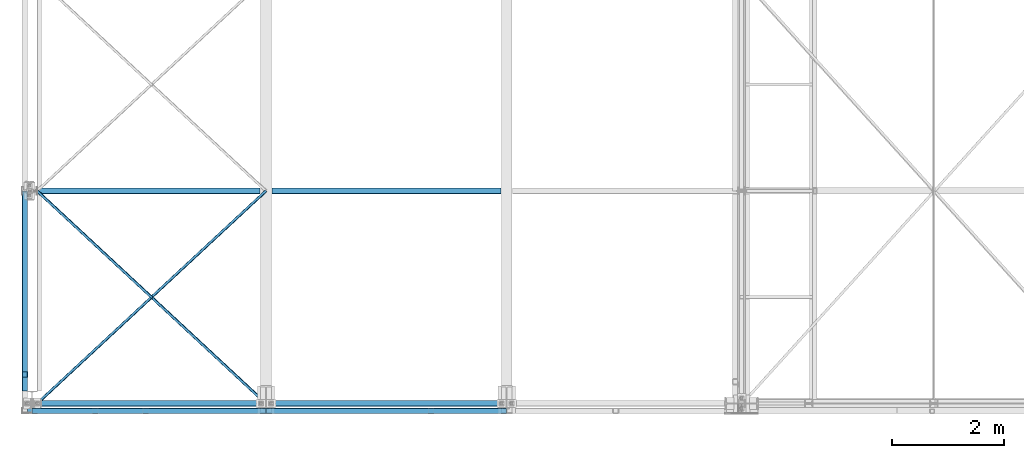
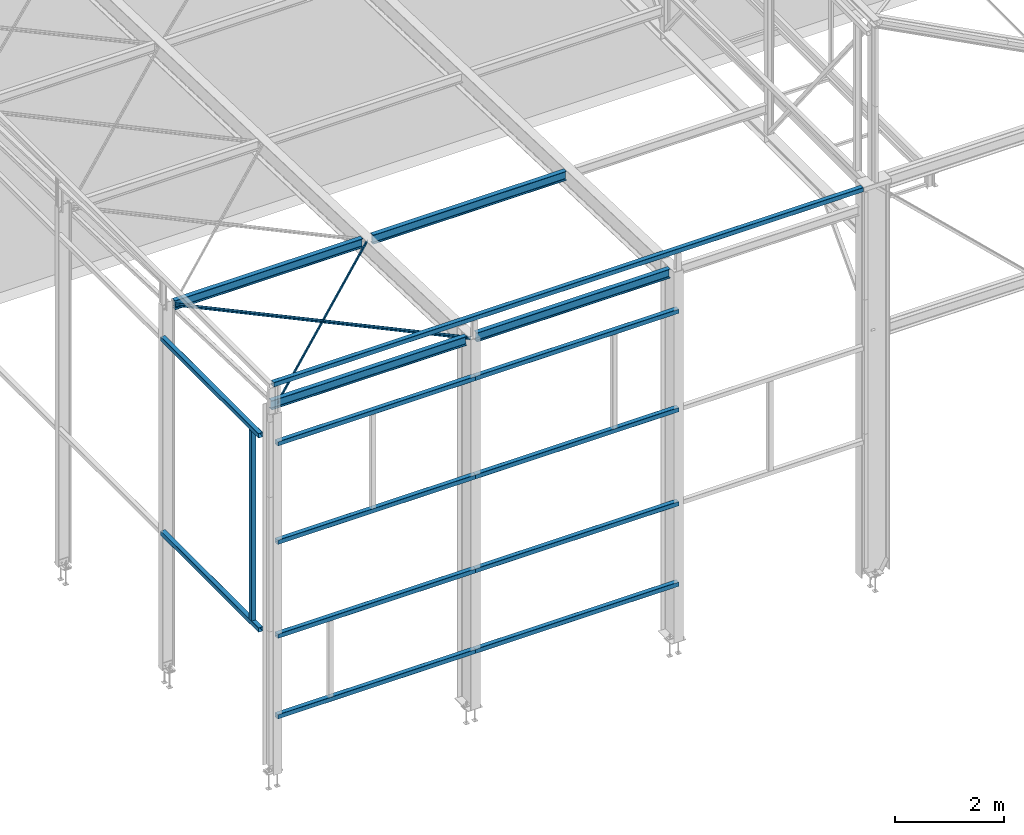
# One storey, part 24 of 123: 18 beams, 18 elements without a shape of their own.
"""IFC2X3 building model written with IfcOpenShell, lengths in millimetres."""

from ifc_helpers import new_model, si_unit, frame, origin_with_axes, origin_2d_with_axis, place, context, subcontext, project, spatial, hollow_rectangle, i_section, l_section, extrude, material, type_object, element, aggregate, save


model = new_model("IFC2X3")

# Units and contexts
model_context = context("Model", 3, precision=1e-05, world=origin_with_axes())
body_context = subcontext(model_context, "Body", "Model", "MODEL_VIEW")
ifc_project = project(units=[si_unit("LENGTHUNIT", "METRE", prefix="MILLI"), si_unit("AREAUNIT", "SQUARE_METRE"), si_unit("VOLUMEUNIT", "CUBIC_METRE"), si_unit("MASSUNIT", "GRAM", prefix="KILO"), si_unit("TIMEUNIT", "SECOND"), si_unit("PLANEANGLEUNIT", "RADIAN"), si_unit("SOLIDANGLEUNIT", "STERADIAN"), si_unit("THERMODYNAMICTEMPERATUREUNIT", "DEGREE_CELSIUS"), si_unit("LUMINOUSINTENSITYUNIT", "LUMEN")], contexts=[model_context])

# Site, building, storey
site_placement = place(None, origin_with_axes())
site = spatial("IfcSite", under=ifc_project, at=site_placement, Name="Undefined", CompositionType="ELEMENT")
building_placement = place(site_placement, origin_with_axes())
building = spatial("IfcBuilding", under=site, at=building_placement, Name="Undefined", CompositionType="ELEMENT")
storey_placement = place(building_placement, origin_with_axes())
storey = spatial("IfcBuildingStorey", under=building, at=storey_placement, Name="Undefined", CompositionType="ELEMENT", Elevation=0.0)

# Assembly, beam
assembly_1_placement = place(storey_placement, origin_with_axes())
assembly_1 = element("IfcElementAssembly", 1, at=assembly_1_placement, inside=storey, Name="Steel Assembly", AssemblyPlace="NOTDEFINED", PredefinedType="RIGID_FRAME")
ifc_material_1 = material(Name="STEEL/S235-E24")
beam_type_1 = type_object("IfcBeamType", Name="TUBE-C-100*100*4", PredefinedType="NOTDEFINED")
beam_1_placement = place(assembly_1_placement, frame((4180.0000000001, -130.000008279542, 7150.0), z_axis=(0.0, 0.0, -1.0), x_axis=(1.0, 0.0, 0.0)))
beam_1 = element("IfcBeam", 2, at=beam_1_placement, type_object=beam_type_1, material=ifc_material_1, Name="LISSE CHASSIS", ObjectType="TUBE-C-100*100*4", context=body_context, shape_type="SweptSolid", body=[
    extrude(hollow_rectangle(XDim=100.0, YDim=100.0, WallThickness=4.0, InnerFilletRadius=4.0, OuterFilletRadius=8.0, at=origin_2d_with_axis()), frame((4299.9999999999, 0.0, 0.0), z_axis=(-1.0, 0.0, 0.0), x_axis=(0.0, -1.0, 0.0)), (0.0, 0.0, 1.0), 4300.0),
])
aggregate(assembly_1, [beam_1])

assembly_2_placement = place(storey_placement, origin_with_axes())
assembly_2 = element("IfcElementAssembly", 3, at=assembly_2_placement, inside=storey, Name="Steel Assembly", AssemblyPlace="NOTDEFINED", PredefinedType="RIGID_FRAME")
beam_2_placement = place(assembly_2_placement, frame((4180.0, -130.000008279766, 4949.99999999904), z_axis=(0.0, 0.0, 1.0), x_axis=(1.0, 0.0, 0.0)))
beam_2 = element("IfcBeam", 4, at=beam_2_placement, type_object=beam_type_1, material=ifc_material_1, Name="LISSE CHASSIS", ObjectType="TUBE-C-100*100*4", context=body_context, shape_type="SweptSolid", body=[
    extrude(hollow_rectangle(XDim=100.0, YDim=100.0, WallThickness=4.0, InnerFilletRadius=4.0, OuterFilletRadius=8.0, at=origin_2d_with_axis()), frame((4299.9999999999, 0.0, 0.0), z_axis=(-1.0, 0.0, 0.0), x_axis=(0.0, -1.0, 0.0)), (0.0, 0.0, 1.0), 4300.0),
])
aggregate(assembly_2, [beam_2])

assembly_3_placement = place(storey_placement, origin_with_axes())
assembly_3 = element("IfcElementAssembly", 5, at=assembly_3_placement, inside=storey, Name="Steel Assembly", AssemblyPlace="NOTDEFINED", PredefinedType="RIGID_FRAME")
beam_3_placement = place(assembly_3_placement, frame((4180.0000000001, -130.000008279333, 2850.0), z_axis=(0.0, 0.0, -1.0), x_axis=(1.0, 0.0, 0.0)))
beam_3 = element("IfcBeam", 6, at=beam_3_placement, type_object=beam_type_1, material=ifc_material_1, Name="LISSE CHASSIS", ObjectType="TUBE-C-100*100*4", context=body_context, shape_type="SweptSolid", body=[
    extrude(hollow_rectangle(XDim=100.0, YDim=100.0, WallThickness=4.0, InnerFilletRadius=4.0, OuterFilletRadius=8.0, at=origin_2d_with_axis()), frame((4299.9999999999, 0.0, 0.0), z_axis=(-1.0, 0.0, 0.0), x_axis=(0.0, -1.0, 0.0)), (0.0, 0.0, 1.0), 4300.0),
])
aggregate(assembly_3, [beam_3])

assembly_4_placement = place(storey_placement, origin_with_axes())
assembly_4 = element("IfcElementAssembly", 7, at=assembly_4_placement, inside=storey, Name="Steel Assembly", AssemblyPlace="NOTDEFINED", PredefinedType="RIGID_FRAME")
beam_4_placement = place(assembly_4_placement, frame((4180.0, -130.000008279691, 1049.99999999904), z_axis=(0.0, 0.0, 1.0), x_axis=(1.0, 0.0, 0.0)))
beam_4 = element("IfcBeam", 8, at=beam_4_placement, type_object=beam_type_1, material=ifc_material_1, Name="LISSE CHASSIS", ObjectType="TUBE-C-100*100*4", context=body_context, shape_type="SweptSolid", body=[
    extrude(hollow_rectangle(XDim=100.0, YDim=100.0, WallThickness=4.0, InnerFilletRadius=4.0, OuterFilletRadius=8.0, at=origin_2d_with_axis()), frame((4299.9999999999, 0.0, 0.0), z_axis=(-1.0, 0.0, 0.0), x_axis=(0.0, -1.0, 0.0)), (0.0, 0.0, 1.0), 4300.0),
])
aggregate(assembly_4, [beam_4])

assembly_5_placement = place(storey_placement, origin_with_axes())
assembly_5 = element("IfcElementAssembly", 9, at=assembly_5_placement, inside=storey, Name="Steel Assembly", AssemblyPlace="NOTDEFINED", PredefinedType="RIGID_FRAME")
beam_5_placement = place(assembly_5_placement, frame((7.06409508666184e-09, -130.000007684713, 7150.0), z_axis=(0.0, 0.0, -1.0), x_axis=(1.0, 0.0, 0.0)))
beam_5 = element("IfcBeam", 10, at=beam_5_placement, type_object=beam_type_1, material=ifc_material_1, Name="LISSE CHASSIS", ObjectType="TUBE-C-100*100*4", context=body_context, shape_type="SweptSolid", body=[
    extrude(hollow_rectangle(XDim=100.0, YDim=100.0, WallThickness=4.0, InnerFilletRadius=4.0, OuterFilletRadius=8.0, at=origin_2d_with_axis()), frame((4180.00000000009, 0.0, 0.0), z_axis=(-1.0, 0.0, 0.0), x_axis=(0.0, -1.0, 0.0)), (0.0, 0.0, 1.0), 4180.0),
])
aggregate(assembly_5, [beam_5])

assembly_6_placement = place(storey_placement, origin_with_axes())
assembly_6 = element("IfcElementAssembly", 11, at=assembly_6_placement, inside=storey, Name="Steel Assembly", AssemblyPlace="NOTDEFINED", PredefinedType="RIGID_FRAME")
beam_6_placement = place(assembly_6_placement, frame((7.07302660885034e-09, -130.000007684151, 4949.99999999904), z_axis=(0.0, 0.0, 1.0), x_axis=(1.0, 0.0, 0.0)))
beam_6 = element("IfcBeam", 12, at=beam_6_placement, type_object=beam_type_1, material=ifc_material_1, Name="LISSE CHASSIS", ObjectType="TUBE-C-100*100*4", context=body_context, shape_type="SweptSolid", body=[
    extrude(hollow_rectangle(XDim=100.0, YDim=100.0, WallThickness=4.0, InnerFilletRadius=4.0, OuterFilletRadius=8.0, at=origin_2d_with_axis()), frame((4180.00000000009, 0.0, 0.0), z_axis=(-1.0, 0.0, 0.0), x_axis=(0.0, -1.0, 0.0)), (0.0, 0.0, 1.0), 4180.0),
])
aggregate(assembly_6, [beam_6])

assembly_7_placement = place(storey_placement, origin_with_axes())
assembly_7 = element("IfcElementAssembly", 13, at=assembly_7_placement, inside=storey, Name="Steel Assembly", AssemblyPlace="NOTDEFINED", PredefinedType="RIGID_FRAME")
beam_7_placement = place(assembly_7_placement, frame((7.06173608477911e-09, -130.000007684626, 2850.0), z_axis=(0.0, 0.0, -1.0), x_axis=(1.0, 0.0, 0.0)))
beam_7 = element("IfcBeam", 14, at=beam_7_placement, type_object=beam_type_1, material=ifc_material_1, Name="LISSE CHASSIS", ObjectType="TUBE-C-100*100*4", context=body_context, shape_type="SweptSolid", body=[
    extrude(hollow_rectangle(XDim=100.0, YDim=100.0, WallThickness=4.0, InnerFilletRadius=4.0, OuterFilletRadius=8.0, at=origin_2d_with_axis()), frame((4180.00000000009, 0.0, 0.0), z_axis=(-1.0, 0.0, 0.0), x_axis=(0.0, -1.0, 0.0)), (0.0, 0.0, 1.0), 4180.0),
])
aggregate(assembly_7, [beam_7])

assembly_8_placement = place(storey_placement, origin_with_axes())
assembly_8 = element("IfcElementAssembly", 15, at=assembly_8_placement, inside=storey, Name="Steel Assembly", AssemblyPlace="NOTDEFINED", PredefinedType="RIGID_FRAME")
beam_8_placement = place(assembly_8_placement, frame((7.07353819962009e-09, -130.000007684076, 1049.99999999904), z_axis=(0.0, 0.0, 1.0), x_axis=(1.0, 0.0, 0.0)))
beam_8 = element("IfcBeam", 16, at=beam_8_placement, type_object=beam_type_1, material=ifc_material_1, Name="LISSE CHASSIS", ObjectType="TUBE-C-100*100*4", context=body_context, shape_type="SweptSolid", body=[
    extrude(hollow_rectangle(XDim=100.0, YDim=100.0, WallThickness=4.0, InnerFilletRadius=4.0, OuterFilletRadius=8.0, at=origin_2d_with_axis()), frame((4180.00000000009, 0.0, 0.0), z_axis=(-1.0, 0.0, 0.0), x_axis=(0.0, -1.0, 0.0)), (0.0, 0.0, 1.0), 4180.0),
])
aggregate(assembly_8, [beam_8])

assembly_9_placement = place(storey_placement, origin_with_axes())
assembly_9 = element("IfcElementAssembly", 17, at=assembly_9_placement, inside=storey, Name="Steel Assembly", AssemblyPlace="NOTDEFINED", PredefinedType="RIGID_FRAME")
beam_9_placement = place(assembly_9_placement, frame((-130.00000139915, 3800.00000343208, 7150.00001790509), z_axis=(0.0, 0.0, -1.0), x_axis=(0.0, -1.0, 0.0)))
beam_9 = element("IfcBeam", 18, at=beam_9_placement, type_object=beam_type_1, material=ifc_material_1, Name="LISSE CHASSIS", ObjectType="TUBE-C-100*100*4", context=body_context, shape_type="SweptSolid", body=[
    extrude(hollow_rectangle(XDim=100.0, YDim=100.0, WallThickness=4.0, InnerFilletRadius=4.0, OuterFilletRadius=8.0, at=origin_2d_with_axis()), frame((3580.00000400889, 0.0, 0.0), z_axis=(-1.0, 0.0, 0.0), x_axis=(0.0, -1.0, 0.0)), (0.0, 0.0, 1.0), 3580.0),
])
aggregate(assembly_9, [beam_9])

assembly_10_placement = place(storey_placement, origin_with_axes())
assembly_10 = element("IfcElementAssembly", 19, at=assembly_10_placement, inside=storey, Name="Steel Assembly", AssemblyPlace="NOTDEFINED", PredefinedType="RIGID_FRAME")
beam_10_placement = place(assembly_10_placement, frame((-130.000001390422, 3799.99999900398, 2809.99999988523), z_axis=(0.0, 0.0, 1.0), x_axis=(0.0, -1.0, 0.0)))
beam_10 = element("IfcBeam", 20, at=beam_10_placement, type_object=beam_type_1, material=ifc_material_1, Name="LISSE CHASSIS", ObjectType="TUBE-C-100*100*4", context=body_context, shape_type="SweptSolid", body=[
    extrude(hollow_rectangle(XDim=100.0, YDim=100.0, WallThickness=4.0, InnerFilletRadius=4.0, OuterFilletRadius=8.0, at=origin_2d_with_axis()), frame((3580.00000400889, 0.0, 0.0), z_axis=(-1.0, 0.0, 0.0), x_axis=(0.0, -1.0, 0.0)), (0.0, 0.0, 1.0), 3580.0),
])
aggregate(assembly_10, [beam_10])

assembly_11_placement = place(storey_placement, origin_with_axes())
assembly_11 = element("IfcElementAssembly", 21, at=assembly_11_placement, inside=storey, Name="Steel Assembly", AssemblyPlace="NOTDEFINED", PredefinedType="RIGID_FRAME")
beam_11_placement = place(assembly_11_placement, frame((-129.999916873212, 519.993384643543, 7100.00000857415), z_axis=(1.0, 0.0, 0.0), x_axis=(0.0, 0.0, -1.0)))
beam_11 = element("IfcBeam", 22, at=beam_11_placement, type_object=beam_type_1, material=ifc_material_1, Name="MONTANT", ObjectType="TUBE-C-100*100*4", context=body_context, shape_type="SweptSolid", body=[
    extrude(hollow_rectangle(XDim=100.0, YDim=100.0, WallThickness=4.0, InnerFilletRadius=4.0, OuterFilletRadius=8.0, at=origin_2d_with_axis()), frame((4240.0000086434, 0.0, 0.0), z_axis=(-1.0, 0.0, 0.0), x_axis=(0.0, -1.0, 0.0)), (0.0, 0.0, 1.0), 4240.0),
])
aggregate(assembly_11, [beam_11])

assembly_12_placement = place(storey_placement, origin_with_axes())
assembly_12 = element("IfcElementAssembly", 23, at=assembly_12_placement, inside=storey, Name="Steel Assembly", AssemblyPlace="NOTDEFINED", PredefinedType="RIGID_FRAME")
beam_12_placement = place(assembly_12_placement, frame((-80.0, -130.0, 8500.0), z_axis=(0.0, 0.0, 1.0), x_axis=(1.0, 0.0, 0.0)))
beam_12 = element("IfcBeam", 24, at=beam_12_placement, type_object=beam_type_1, material=ifc_material_1, Name="LISSE ACROTERE", ObjectType="TUBE-C-100*100*4", context=body_context, shape_type="SweptSolid", body=[
    extrude(hollow_rectangle(XDim=100.0, YDim=100.0, WallThickness=4.0, InnerFilletRadius=4.0, OuterFilletRadius=8.0, at=origin_2d_with_axis()), frame((12460.0, 0.0, 0.0), z_axis=(-1.0, 0.0, 0.0), x_axis=(0.0, -1.0, 0.0)), (0.0, 0.0, 1.0), 12460.0),
])
aggregate(assembly_12, [beam_12])

assembly_13_placement = place(storey_placement, origin_with_axes())
assembly_13 = element("IfcElementAssembly", 25, at=assembly_13_placement, inside=storey, Name="Steel Assembly", AssemblyPlace="NOTDEFINED", PredefinedType="RIGID_FRAME")
beam_type_2 = type_object("IfcBeamType", Name="L50*5", PredefinedType="NOTDEFINED")
beam_13_placement = place(assembly_13_placement, frame((4180.00002809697, 2.42824460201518e-05, 7949.9506246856), z_axis=(-0.680838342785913, -0.732072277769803, 0.0230071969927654), x_axis=(-0.732433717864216, 0.680502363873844, -0.0213864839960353)))
beam_13 = element("IfcBeam", 26, at=beam_13_placement, type_object=beam_type_2, material=ifc_material_1, Name="STABILITE CVT", ObjectType="L50*5", context=body_context, shape_type="SweptSolid", body=[
    extrude(l_section(Depth=50.0, Width=50.0, Thickness=5.0, FilletRadius=7.0, EdgeRadius=3.5, at=origin_2d_with_axis()), frame((5584.12307961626, -1.93738187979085e-14, -3.31776646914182e-13), z_axis=(-1.0, 0.0, 0.0), x_axis=(0.0, -1.0, 0.0)), (0.0, 0.0, 1.0), 5584.1),
])
aggregate(assembly_13, [beam_13])

assembly_14_placement = place(storey_placement, origin_with_axes())
assembly_14 = element("IfcElementAssembly", 27, at=assembly_14_placement, inside=storey, Name="Steel Assembly", AssemblyPlace="NOTDEFINED", PredefinedType="RIGID_FRAME")
beam_14_placement = place(assembly_14_placement, frame((90.0000000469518, 0.0, 7949.95062448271), z_axis=(-0.680838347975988, 0.732072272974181, -0.0230071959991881), x_axis=(0.732433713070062, 0.680502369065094, -0.0213864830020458)))
beam_14 = element("IfcBeam", 28, at=beam_14_placement, type_object=beam_type_2, material=ifc_material_1, Name="STABILITE CVT", ObjectType="L50*5", context=body_context, shape_type="SweptSolid", body=[
    extrude(l_section(Depth=50.0, Width=50.0, Thickness=5.0, FilletRadius=7.0, EdgeRadius=3.5, at=origin_2d_with_axis()), frame((5584.12307961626, -1.93738187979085e-14, -3.31776646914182e-13), z_axis=(-1.0, 0.0, 0.0), x_axis=(0.0, -1.0, 0.0)), (0.0, 0.0, 1.0), 5584.1),
])
aggregate(assembly_14, [beam_14])

assembly_15_placement = place(storey_placement, origin_with_axes())
assembly_15 = element("IfcElementAssembly", 29, at=assembly_15_placement, inside=storey, Name="Steel Assembly", AssemblyPlace="NOTDEFINED", PredefinedType="RIGID_FRAME")
ifc_material_2 = material(Name="STEEL/S275-E28")
beam_type_3 = type_object("IfcBeamType", Name="IPE200", PredefinedType="NOTDEFINED")
beam_15_placement = place(assembly_15_placement, frame((4285.0, 3800.00552192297, 7830.53062122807), z_axis=(0.0, 0.0314107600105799, 0.999506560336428), x_axis=(1.0, 0.0, 0.0)))
beam_15 = element("IfcBeam", 30, at=beam_15_placement, type_object=beam_type_3, material=ifc_material_2, Name="PANNE", ObjectType="IPE200", context=body_context, shape_type="SweptSolid", body=[
    extrude(i_section(OverallWidth=100.0, OverallDepth=200.0, WebThickness=5.599999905, FlangeThickness=8.5, FilletRadius=12.0, at=origin_2d_with_axis()), frame((4090.0, 0.0, 0.0), z_axis=(-1.0, 0.0, 0.0), x_axis=(0.0, -1.0, 0.0)), (0.0, 0.0, 1.0), 4090.0),
])
aggregate(assembly_15, [beam_15])

assembly_16_placement = place(storey_placement, origin_with_axes())
assembly_16 = element("IfcElementAssembly", 31, at=assembly_16_placement, inside=storey, Name="Steel Assembly", AssemblyPlace="NOTDEFINED", PredefinedType="RIGID_FRAME")
beam_16_placement = place(assembly_16_placement, frame((4285.0, -5.14432940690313e-10, 7949.95062448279), z_axis=(0.0, 0.0314107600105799, 0.999506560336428), x_axis=(1.0, 0.0, 0.0)))
beam_16 = element("IfcBeam", 32, at=beam_16_placement, type_object=beam_type_3, material=ifc_material_2, Name="PANNE", ObjectType="IPE200", context=body_context, shape_type="SweptSolid", body=[
    extrude(i_section(OverallWidth=100.0, OverallDepth=200.0, WebThickness=5.599999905, FlangeThickness=8.5, FilletRadius=12.0, at=origin_2d_with_axis()), frame((4090.0, 0.0, 0.0), z_axis=(-1.0, 0.0, 0.0), x_axis=(0.0, -1.0, 0.0)), (0.0, 0.0, 1.0), 4090.0),
])
aggregate(assembly_16, [beam_16])

assembly_17_placement = place(storey_placement, origin_with_axes())
assembly_17 = element("IfcElementAssembly", 33, at=assembly_17_placement, inside=storey, Name="Steel Assembly", AssemblyPlace="NOTDEFINED", PredefinedType="RIGID_FRAME")
beam_17_placement = place(assembly_17_placement, frame((100.000000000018, 3800.00552192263, 7830.53062122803), z_axis=(0.0, 0.0314107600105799, 0.999506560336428), x_axis=(1.0, 0.0, 0.0)))
beam_17 = element("IfcBeam", 34, at=beam_17_placement, type_object=beam_type_3, material=ifc_material_2, Name="PANNE", ObjectType="IPE200", context=body_context, shape_type="SweptSolid", body=[
    extrude(i_section(OverallWidth=100.0, OverallDepth=200.0, WebThickness=5.599999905, FlangeThickness=8.5, FilletRadius=12.0, at=origin_2d_with_axis()), frame((3974.99999999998, 4.54747350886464e-13, 0.0), z_axis=(-1.0, 0.0, 0.0), x_axis=(0.0, -1.0, 0.0)), (0.0, 0.0, 1.0), 3975.0),
])
aggregate(assembly_17, [beam_17])

assembly_18_placement = place(storey_placement, origin_with_axes())
assembly_18 = element("IfcElementAssembly", 35, at=assembly_18_placement, inside=storey, Name="Steel Assembly", AssemblyPlace="NOTDEFINED", PredefinedType="RIGID_FRAME")
beam_18_placement = place(assembly_18_placement, frame((-49.9999999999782, -8.90679530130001e-10, 7949.95062448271), z_axis=(0.0, 0.0314107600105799, 0.999506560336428), x_axis=(1.0, 0.0, 0.0)))
beam_18 = element("IfcBeam", 36, at=beam_18_placement, type_object=beam_type_3, material=ifc_material_2, Name="PANNE", ObjectType="IPE200", context=body_context, shape_type="SweptSolid", body=[
    extrude(i_section(OverallWidth=100.0, OverallDepth=200.0, WebThickness=5.599999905, FlangeThickness=8.5, FilletRadius=12.0, at=origin_2d_with_axis()), frame((4124.99999999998, 0.0, 0.0), z_axis=(-1.0, 0.0, 0.0), x_axis=(0.0, -1.0, 0.0)), (0.0, 0.0, 1.0), 4125.0),
])
aggregate(assembly_18, [beam_18])

save(model, "model.ifc")
